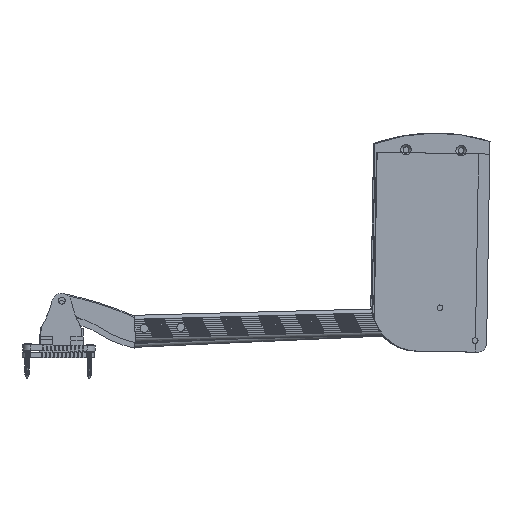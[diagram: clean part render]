
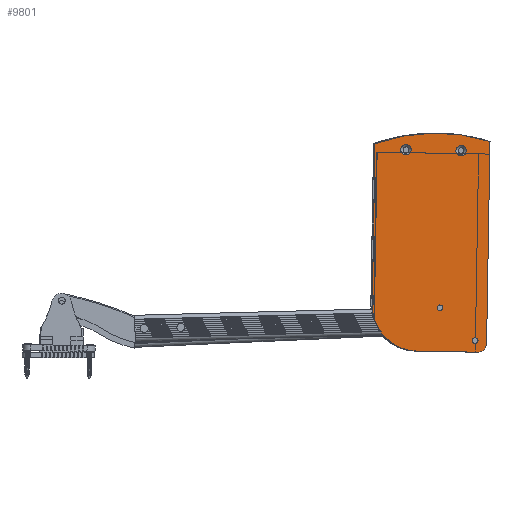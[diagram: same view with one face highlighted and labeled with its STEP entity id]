
A CAD part, left-side view. The second image highlights one B-rep face of the part: STEP entity #9801.
In plain terms, the highlighted planar face has unit normal (-1, -0.002, 0) as drawn and (0, 0, 1) by its records, which use the part's own axes.
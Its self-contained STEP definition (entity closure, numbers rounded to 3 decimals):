
#152=FACE_BOUND('',#1318,.T.);
#153=FACE_BOUND('',#1319,.T.);
#154=FACE_BOUND('',#1320,.T.);
#155=FACE_BOUND('',#1321,.T.);
#357=PLANE('',#10558);
#756=FACE_OUTER_BOUND('',#1317,.T.);
#1317=EDGE_LOOP('',(#7892,#7893,#7894,#7895,#7896,#7897));
#1318=EDGE_LOOP('',(#7898));
#1319=EDGE_LOOP('',(#7899));
#1320=EDGE_LOOP('',(#7900));
#1321=EDGE_LOOP('',(#7901));
#1698=CIRCLE('',#10549,4.5);
#1705=CIRCLE('',#10559,156.848);
#1706=CIRCLE('',#10560,40.);
#1707=CIRCLE('',#10561,8.);
#1708=CIRCLE('',#10562,4.5);
#1709=CIRCLE('',#10563,2.5);
#1710=CIRCLE('',#10564,2.5);
#2711=LINE('',#18193,#3438);
#2712=LINE('',#18197,#3439);
#2713=LINE('',#18201,#3440);
#3438=VECTOR('',#12314,10.);
#3439=VECTOR('',#12317,10.);
#3440=VECTOR('',#12320,10.);
#4336=VERTEX_POINT('',#18135);
#4356=VERTEX_POINT('',#18191);
#4357=VERTEX_POINT('',#18192);
#4358=VERTEX_POINT('',#18194);
#4359=VERTEX_POINT('',#18196);
#4360=VERTEX_POINT('',#18198);
#4361=VERTEX_POINT('',#18200);
#4362=VERTEX_POINT('',#18203);
#4363=VERTEX_POINT('',#18205);
#4364=VERTEX_POINT('',#18207);
#5591=EDGE_CURVE('',#4336,#4336,#1698,.T.);
#5614=EDGE_CURVE('',#4356,#4357,#2711,.T.);
#5615=EDGE_CURVE('',#4357,#4358,#1705,.T.);
#5616=EDGE_CURVE('',#4358,#4359,#2712,.T.);
#5617=EDGE_CURVE('',#4359,#4360,#1706,.T.);
#5618=EDGE_CURVE('',#4360,#4361,#2713,.T.);
#5619=EDGE_CURVE('',#4361,#4356,#1707,.T.);
#5620=EDGE_CURVE('',#4362,#4362,#1708,.T.);
#5621=EDGE_CURVE('',#4363,#4363,#1709,.T.);
#5622=EDGE_CURVE('',#4364,#4364,#1710,.T.);
#7892=ORIENTED_EDGE('',*,*,#5614,.T.);
#7893=ORIENTED_EDGE('',*,*,#5615,.T.);
#7894=ORIENTED_EDGE('',*,*,#5616,.T.);
#7895=ORIENTED_EDGE('',*,*,#5617,.T.);
#7896=ORIENTED_EDGE('',*,*,#5618,.T.);
#7897=ORIENTED_EDGE('',*,*,#5619,.T.);
#7898=ORIENTED_EDGE('',*,*,#5620,.F.);
#7899=ORIENTED_EDGE('',*,*,#5621,.T.);
#7900=ORIENTED_EDGE('',*,*,#5622,.T.);
#7901=ORIENTED_EDGE('',*,*,#5591,.F.);
#9801=ADVANCED_FACE('',(#756,#152,#153,#154,#155),#357,.T.);
#10549=AXIS2_PLACEMENT_3D('',#18136,#12283,#12284);
#10558=AXIS2_PLACEMENT_3D('',#18190,#12312,#12313);
#10559=AXIS2_PLACEMENT_3D('',#18195,#12315,#12316);
#10560=AXIS2_PLACEMENT_3D('',#18199,#12318,#12319);
#10561=AXIS2_PLACEMENT_3D('',#18202,#12321,#12322);
#10562=AXIS2_PLACEMENT_3D('',#18204,#12323,#12324);
#10563=AXIS2_PLACEMENT_3D('',#18206,#12325,#12326);
#10564=AXIS2_PLACEMENT_3D('',#18208,#12327,#12328);
#12283=DIRECTION('center_axis',(0.,0.,1.));
#12284=DIRECTION('ref_axis',(-1.,0.,0.));
#12312=DIRECTION('center_axis',(0.,0.,1.));
#12313=DIRECTION('ref_axis',(1.,0.,0.));
#12314=DIRECTION('',(0.,1.,0.));
#12315=DIRECTION('center_axis',(0.,0.,1.));
#12316=DIRECTION('ref_axis',(0.285,0.958,0.));
#12317=DIRECTION('',(0.,-1.,0.));
#12318=DIRECTION('center_axis',(0.,0.,1.));
#12319=DIRECTION('ref_axis',(-1.,0.,0.));
#12320=DIRECTION('',(1.,0.,0.));
#12321=DIRECTION('center_axis',(0.,0.,1.));
#12322=DIRECTION('ref_axis',(0.,-1.,0.));
#12323=DIRECTION('center_axis',(0.,0.,1.));
#12324=DIRECTION('ref_axis',(-1.,0.,0.));
#12325=DIRECTION('center_axis',(0.,0.,-1.));
#12326=DIRECTION('ref_axis',(-1.,0.,0.));
#12327=DIRECTION('center_axis',(0.,0.,-1.));
#12328=DIRECTION('ref_axis',(-1.,0.,0.));
#18135=CARTESIAN_POINT('',(-68.5,175.,24.));
#18136=CARTESIAN_POINT('Origin',(-73.,175.,24.));
#18190=CARTESIAN_POINT('Origin',(-78.751,132.099,24.));
#18191=CARTESIAN_POINT('',(0.,8.,24.));
#18192=CARTESIAN_POINT('',(0.,183.487,24.));
#18193=CARTESIAN_POINT('',(0.,8.,24.));
#18194=CARTESIAN_POINT('',(-100.,179.938,24.));
#18195=CARTESIAN_POINT('Origin',(-44.728,33.152,24.));
#18196=CARTESIAN_POINT('',(-100.,40.,24.));
#18197=CARTESIAN_POINT('',(-100.,179.938,24.));
#18198=CARTESIAN_POINT('',(-60.,0.,24.));
#18199=CARTESIAN_POINT('Origin',(-60.,40.,24.));
#18200=CARTESIAN_POINT('',(-8.,0.,24.));
#18201=CARTESIAN_POINT('',(-60.,0.,24.));
#18202=CARTESIAN_POINT('Origin',(-8.,8.,24.));
#18203=CARTESIAN_POINT('',(-20.5,175.,24.));
#18204=CARTESIAN_POINT('Origin',(-25.,175.,24.));
#18205=CARTESIAN_POINT('',(-7.5,10.,24.));
#18206=CARTESIAN_POINT('Origin',(-10.,10.,24.));
#18207=CARTESIAN_POINT('',(-38.5,38.,24.));
#18208=CARTESIAN_POINT('Origin',(-41.,38.,24.));
